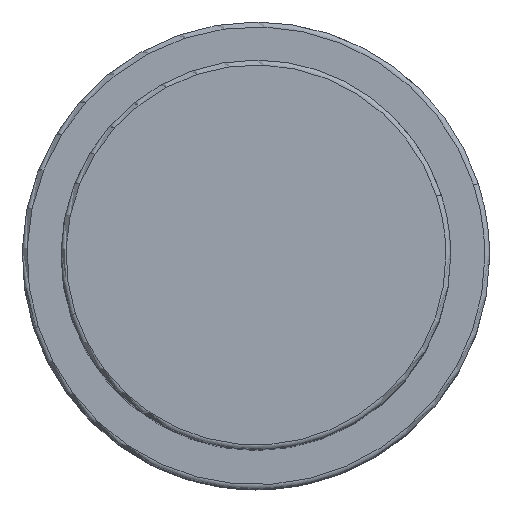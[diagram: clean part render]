
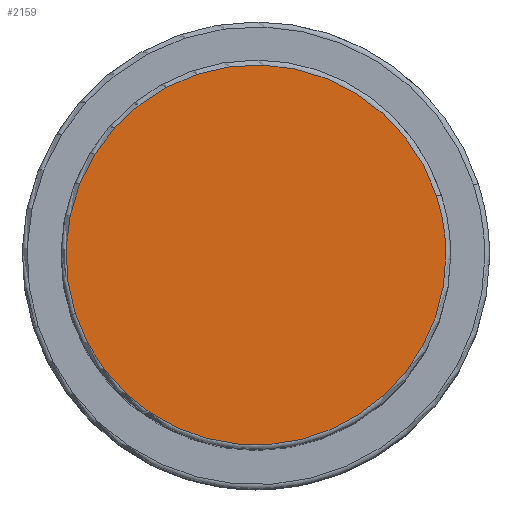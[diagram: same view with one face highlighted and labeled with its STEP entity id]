
A CAD part, top view. The second image highlights one B-rep face of the part: STEP entity #2159.
In plain terms, the highlighted planar face has unit normal (0, 0, 1).
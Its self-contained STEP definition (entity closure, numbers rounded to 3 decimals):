
#2092=CARTESIAN_POINT('',(18.546,6.026,63.5));
#2093=VERTEX_POINT('',#2092);
#2111=CARTESIAN_POINT('',(-18.546,-6.026,63.5));
#2112=VERTEX_POINT('',#2111);
#2120=CARTESIAN_POINT('',(0.0,0.0,63.5));
#2121=DIRECTION('',(0.0,0.0,1.0));
#2122=DIRECTION('',(1.0,0.0,0.0));
#2123=AXIS2_PLACEMENT_3D('',#2120,#2121,#2122);
#2124=CIRCLE('',#2123,19.5);
#2125=EDGE_CURVE('no 1983',#2093,#2112,#2124,.T.);
#2135=CARTESIAN_POINT('',(19.5,0.0,63.5));
#2136=VERTEX_POINT('',#2135);
#2137=CARTESIAN_POINT('',(0.0,0.0,63.5));
#2138=DIRECTION('',(0.0,0.0,1.0));
#2139=DIRECTION('',(1.0,0.0,0.0));
#2140=AXIS2_PLACEMENT_3D('',#2137,#2138,#2139);
#2141=CIRCLE('',#2140,19.5);
#2142=EDGE_CURVE('no 1992',#2136,#2093,#2141,.T.);
#2143=ORIENTED_EDGE('',*,*,#2142,.T.);
#2144=ORIENTED_EDGE('',*,*,#2125,.T.);
#2145=CARTESIAN_POINT('',(0.0,0.0,63.5));
#2146=DIRECTION('',(0.0,0.0,1.0));
#2147=DIRECTION('',(1.0,0.0,0.0));
#2148=AXIS2_PLACEMENT_3D('',#2145,#2146,#2147);
#2149=CIRCLE('',#2148,19.5);
#2150=EDGE_CURVE('no 1998',#2112,#2136,#2149,.T.);
#2151=ORIENTED_EDGE('',*,*,#2150,.T.);
#2152=EDGE_LOOP('',(#2143,#2144,#2151));
#2153=FACE_OUTER_BOUND('',#2152,.T.);
#2154=CARTESIAN_POINT('',(0.0,0.0,63.5));
#2155=DIRECTION('',(0.0,0.0,1.0));
#2156=DIRECTION('',(1.0,0.0,0.0));
#2157=AXIS2_PLACEMENT_3D('',#2154,#2155,#2156);
#2158=PLANE('',#2157);
#2159=ADVANCED_FACE('no 1985',(#2153),#2158,.T.);
